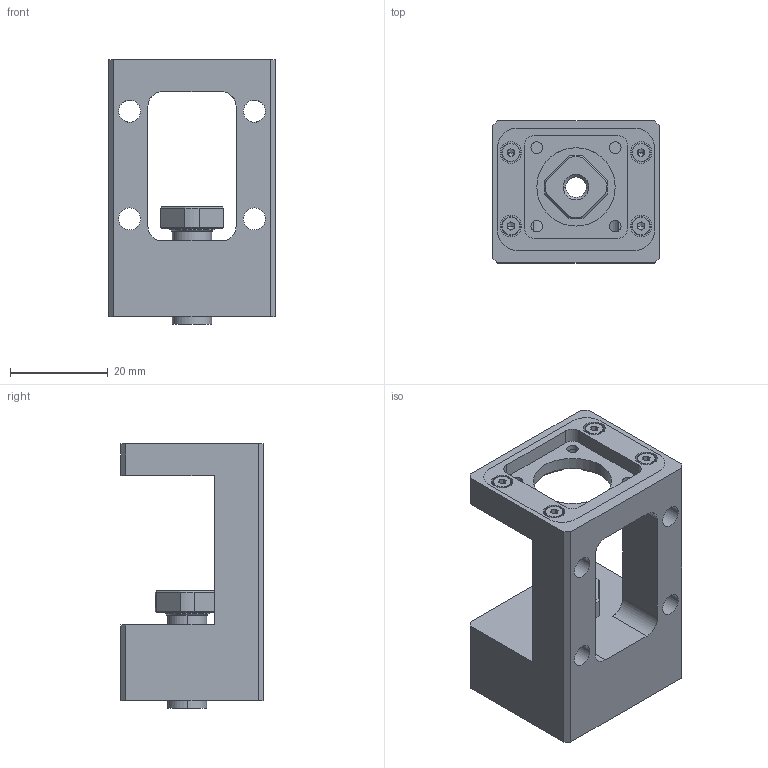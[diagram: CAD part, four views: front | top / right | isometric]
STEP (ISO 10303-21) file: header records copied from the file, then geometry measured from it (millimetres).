
FILE_DESCRIPTION (( 'STEP AP214' ), '1' );
FILE_NAME ('M-SBU-5.20.2.5.STEP', '2026-02-09T09:15:34', ( '决扁浅何厘' ), ( '' ), 'SwSTEP 2.0', 'SolidWorks 2024', '' );
FILE_SCHEMA (( 'AUTOMOTIVE_DESIGN' ));
Length unit declared in the file: millimetre
Products named in the file (8): EK-4-5 COVER; 20 BRACKET; RN5; E-SBU-4-5 HOUSING; socket head cap screw_ks-2-4_KS 1003 - M2 x 4 x 4-N; deep groove ball bearing (series 62)_ks_KS B 2023 S62 - 625-S-ZZ; M-SBU-5.20.2.5; 5 COLLAR
Assembly tree (12 placements, depth 2):
  M-SBU-5.20.2.5
    E-SBU-4-5 HOUSING
    20 BRACKET
    socket head cap screw_ks-2-4_KS 1003 - M2 x 4 x 4-N  x4
    deep groove ball bearing (series 62)_ks_KS B 2023 S62 - 625-S-ZZ  x2
    EK-4-5 COVER
    5 COLLAR  x2
    RN5
Bounding box: 34 x 29 x 54 mm (x, y, z)
Volume: 23616.3 mm3; surface area: 15756.9 mm2
Topology: 14 solids, 18 shells, 461 faces, 1061 edges, 651 vertices
Faces by surface type: cylinder 184, plane 173, torus 64, cone 40
Entity records: 9891 total; most frequent: CARTESIAN_POINT 1956, DIRECTION 1722, ORIENTED_EDGE 1498, EDGE_CURVE 749, AXIS2_PLACEMENT_3D 676, VERTEX_POINT 476, EDGE_LOOP 387, LINE 370
